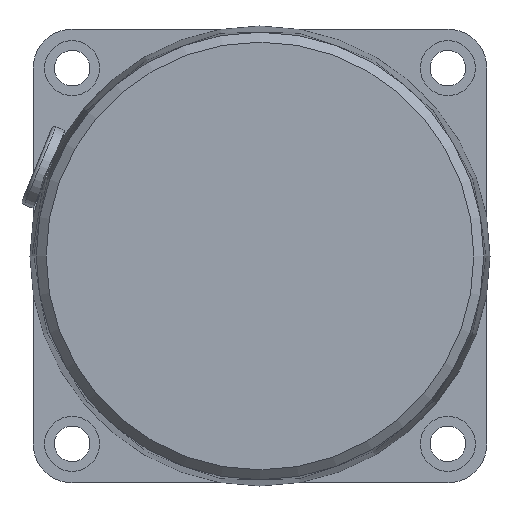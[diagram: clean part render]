
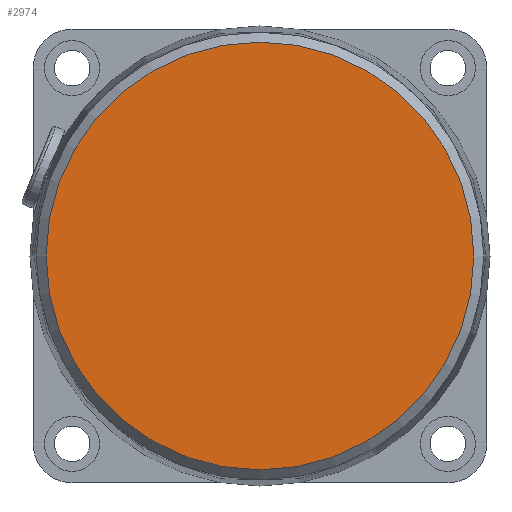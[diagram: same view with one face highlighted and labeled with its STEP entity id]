
A CAD part, left-side view. The second image highlights one B-rep face of the part: STEP entity #2974.
In plain terms, the highlighted planar face has unit normal (-1, 0, 0) as drawn and (0, 0, -1) by its records, which use the part's own axes.
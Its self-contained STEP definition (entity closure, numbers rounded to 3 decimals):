
#2958=CARTESIAN_POINT('',(0.0,0.0,-44.3));
#2959=DIRECTION('',(0.0,0.0,1.0));
#2960=DIRECTION('',(1.0,0.0,0.0));
#2961=AXIS2_PLACEMENT_3D('',#2958,#2959,#2960);
#2962=PLANE('',#2961);
#2963=CARTESIAN_POINT('',(-33.0,0.,-44.3));
#2964=VERTEX_POINT('',#2963);
#2965=CARTESIAN_POINT('',(0.0,0.0,-44.3));
#2966=DIRECTION('',(0.0,0.0,1.0));
#2967=DIRECTION('',(1.0,0.0,0.0));
#2968=AXIS2_PLACEMENT_3D('',#2965,#2966,#2967);
#2969=CIRCLE('',#2968,33.0);
#2970=EDGE_CURVE('',#2964,#2964,#2969,.T.);
#2971=ORIENTED_EDGE('',*,*,#2970,.F.);
#2972=EDGE_LOOP('',(#2971));
#2973=FACE_OUTER_BOUND('',#2972,.T.);
#2974=ADVANCED_FACE('',(#2973),#2962,.F.);
